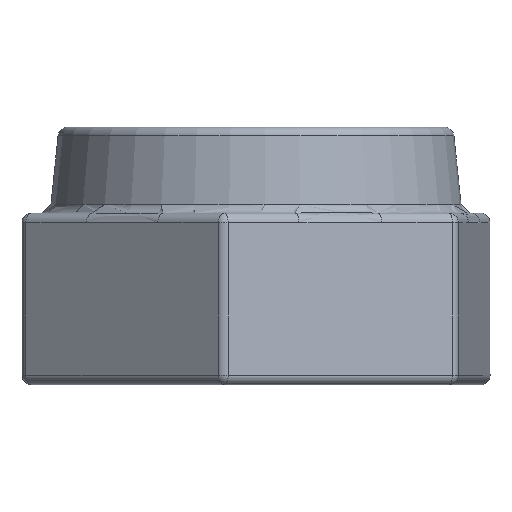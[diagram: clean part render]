
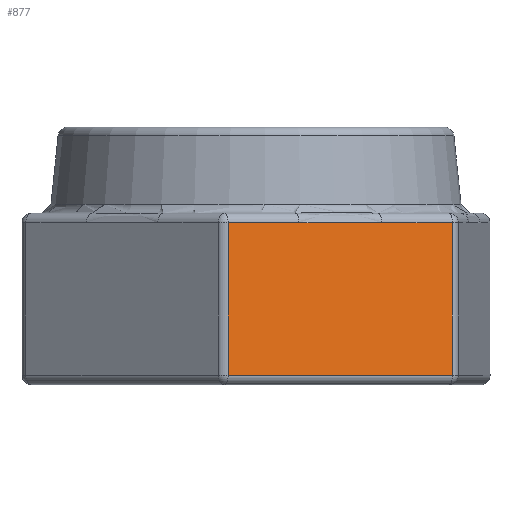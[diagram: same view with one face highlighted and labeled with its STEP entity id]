
A CAD part, front view. The second image highlights one B-rep face of the part: STEP entity #877.
In plain terms, the highlighted planar face has unit normal (0.383, -0.924, 0).
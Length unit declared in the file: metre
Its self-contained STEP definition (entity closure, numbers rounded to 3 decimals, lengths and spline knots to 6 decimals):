
#17=PLANE('',#1009);
#49=B_SPLINE_CURVE_WITH_KNOTS('',3,(#1467,#1468,#1469,#1470,#1471,#1472,
#1473),.UNSPECIFIED.,.F.,.F.,(4,3,4),(0.,0.5,1.),.UNSPECIFIED.);
#70=LINE('',#1413,#118);
#73=LINE('',#1420,#121);
#80=LINE('',#1486,#128);
#83=LINE('',#1493,#131);
#93=LINE('',#1558,#141);
#118=VECTOR('',#1077,1.);
#121=VECTOR('',#1084,1.);
#128=VECTOR('',#1125,1.);
#131=VECTOR('',#1132,1.);
#141=VECTOR('',#1178,1.);
#350=ORIENTED_EDGE('',*,*,#458,.F.);
#351=ORIENTED_EDGE('',*,*,#448,.T.);
#352=ORIENTED_EDGE('',*,*,#434,.F.);
#353=ORIENTED_EDGE('',*,*,#430,.T.);
#354=ORIENTED_EDGE('',*,*,#454,.T.);
#355=ORIENTED_EDGE('',*,*,#480,.F.);
#430=EDGE_CURVE('',#540,#544,#70,.T.);
#434=EDGE_CURVE('',#540,#546,#73,.T.);
#448=EDGE_CURVE('',#553,#546,#49,.T.);
#454=EDGE_CURVE('',#544,#558,#80,.T.);
#458=EDGE_CURVE('',#553,#561,#83,.T.);
#480=EDGE_CURVE('',#561,#558,#93,.T.);
#540=VERTEX_POINT('',#1374);
#544=VERTEX_POINT('',#1411);
#546=VERTEX_POINT('',#1417);
#553=VERTEX_POINT('',#1456);
#558=VERTEX_POINT('',#1484);
#561=VERTEX_POINT('',#1491);
#713=EDGE_LOOP('',(#350,#351,#352,#353,#354,#355));
#785=FACE_BOUND('',#713,.T.);
#877=ADVANCED_FACE('',(#785),#17,.F.);
#1009=AXIS2_PLACEMENT_3D('',#1694,#1283,#1284);
#1077=DIRECTION('',(0.,0.,-1.));
#1084=DIRECTION('',(0.924,0.383,0.));
#1125=DIRECTION('',(0.924,0.383,0.));
#1132=DIRECTION('',(0.924,0.383,0.));
#1178=DIRECTION('',(0.,0.,-1.));
#1283=DIRECTION('',(-0.383,0.924,0.));
#1284=DIRECTION('',(0.,0.,-1.));
#1374=CARTESIAN_POINT('',(-0.006163,0.030439,-0.215267));
#1411=CARTESIAN_POINT('',(-0.006163,0.030439,-0.217927));
#1413=CARTESIAN_POINT('',(-0.006163,0.030439,-0.215267));
#1417=CARTESIAN_POINT('',(-0.004927,0.030951,-0.215267));
#1420=CARTESIAN_POINT('',(-0.006163,0.030439,-0.215267));
#1456=CARTESIAN_POINT('',(-0.003484,0.03155,-0.215267));
#1467=CARTESIAN_POINT('',(-0.003484,0.03155,-0.215267));
#1468=CARTESIAN_POINT('',(-0.003725,0.03145,-0.215267));
#1469=CARTESIAN_POINT('',(-0.003965,0.03135,-0.215257));
#1470=CARTESIAN_POINT('',(-0.004206,0.031251,-0.215257));
#1471=CARTESIAN_POINT('',(-0.004446,0.031151,-0.215257));
#1472=CARTESIAN_POINT('',(-0.004687,0.031051,-0.215267));
#1473=CARTESIAN_POINT('',(-0.004927,0.030951,-0.215267));
#1484=CARTESIAN_POINT('',(-0.002248,0.032062,-0.217927));
#1486=CARTESIAN_POINT('',(-0.006163,0.030439,-0.217927));
#1491=CARTESIAN_POINT('',(-0.002248,0.032062,-0.215267));
#1493=CARTESIAN_POINT('',(-0.003484,0.03155,-0.215267));
#1558=CARTESIAN_POINT('',(-0.002248,0.032062,-0.215267));
#1694=CARTESIAN_POINT('',(-0.006254,0.030401,-0.215097));
